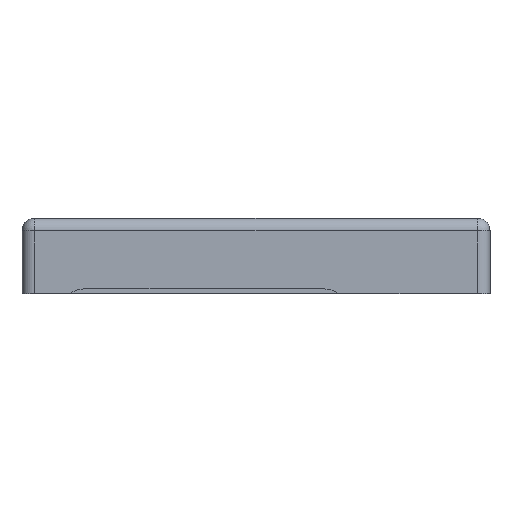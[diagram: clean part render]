
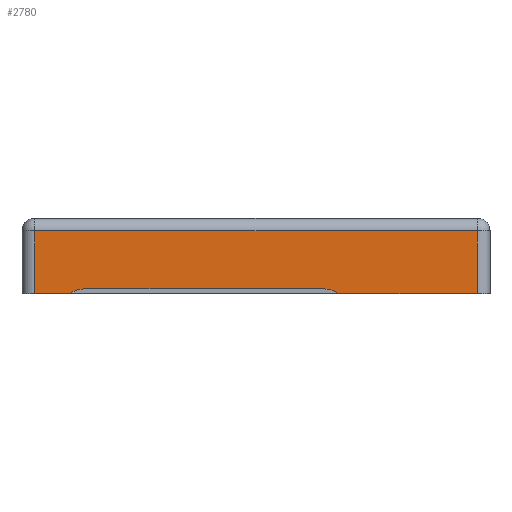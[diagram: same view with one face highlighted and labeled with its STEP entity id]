
A CAD part, front view. The second image highlights one B-rep face of the part: STEP entity #2780.
In plain terms, the highlighted planar face has unit normal (0, -1, 0).
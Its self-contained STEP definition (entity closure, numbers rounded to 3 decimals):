
#250=FACE_OUTER_BOUND('',#420,.T.);
#420=EDGE_LOOP('',(#2074,#2075,#2076,#2077,#2078,#2079,#2080,#2081));
#587=CIRCLE('',#2983,4.496);
#588=CIRCLE('',#2984,4.496);
#716=LINE('',#4150,#987);
#717=LINE('',#4155,#988);
#726=LINE('',#4177,#997);
#727=LINE('',#4179,#998);
#728=LINE('',#4181,#999);
#729=LINE('',#4185,#1000);
#987=VECTOR('',#3328,10.);
#988=VECTOR('',#3335,10.);
#997=VECTOR('',#3350,10.);
#998=VECTOR('',#3351,10.);
#999=VECTOR('',#3352,10.);
#1000=VECTOR('',#3355,10.);
#1282=VERTEX_POINT('',#4146);
#1283=VERTEX_POINT('',#4148);
#1284=VERTEX_POINT('',#4154);
#1294=VERTEX_POINT('',#4176);
#1295=VERTEX_POINT('',#4178);
#1296=VERTEX_POINT('',#4180);
#1297=VERTEX_POINT('',#4182);
#1298=VERTEX_POINT('',#4184);
#1582=EDGE_CURVE('',#1283,#1282,#716,.T.);
#1584=EDGE_CURVE('',#1284,#1282,#717,.T.);
#1595=EDGE_CURVE('',#1294,#1283,#726,.T.);
#1596=EDGE_CURVE('',#1295,#1294,#727,.T.);
#1597=EDGE_CURVE('',#1295,#1296,#728,.T.);
#1598=EDGE_CURVE('',#1296,#1297,#587,.T.);
#1599=EDGE_CURVE('',#1297,#1298,#729,.T.);
#1600=EDGE_CURVE('',#1298,#1284,#588,.T.);
#2074=ORIENTED_EDGE('',*,*,#1582,.F.);
#2075=ORIENTED_EDGE('',*,*,#1595,.F.);
#2076=ORIENTED_EDGE('',*,*,#1596,.F.);
#2077=ORIENTED_EDGE('',*,*,#1597,.T.);
#2078=ORIENTED_EDGE('',*,*,#1598,.T.);
#2079=ORIENTED_EDGE('',*,*,#1599,.T.);
#2080=ORIENTED_EDGE('',*,*,#1600,.T.);
#2081=ORIENTED_EDGE('',*,*,#1584,.T.);
#2693=PLANE('',#2982);
#2780=ADVANCED_FACE('',(#250),#2693,.T.);
#2982=AXIS2_PLACEMENT_3D('',#4175,#3348,#3349);
#2983=AXIS2_PLACEMENT_3D('',#4183,#3353,#3354);
#2984=AXIS2_PLACEMENT_3D('',#4186,#3356,#3357);
#3328=DIRECTION('',(0.,0.,-1.));
#3335=DIRECTION('',(1.,0.,0.));
#3348=DIRECTION('center_axis',(0.,-1.,0.));
#3349=DIRECTION('ref_axis',(1.,0.,0.));
#3350=DIRECTION('',(1.,0.,0.));
#3351=DIRECTION('',(0.,0.,1.));
#3352=DIRECTION('',(1.,0.,0.));
#3353=DIRECTION('center_axis',(0.,1.,0.));
#3354=DIRECTION('ref_axis',(0.,0.,1.));
#3355=DIRECTION('',(1.,0.,0.));
#3356=DIRECTION('center_axis',(0.,1.,0.));
#3357=DIRECTION('ref_axis',(0.,0.,-1.));
#4146=CARTESIAN_POINT('',(44.,-32.,15.));
#4148=CARTESIAN_POINT('',(44.,-32.,27.5));
#4150=CARTESIAN_POINT('',(44.,-32.,0.));
#4154=CARTESIAN_POINT('',(16.429,-32.,15.));
#4155=CARTESIAN_POINT('',(-23.25,-32.,15.));
#4175=CARTESIAN_POINT('Origin',(-46.5,-32.,0.));
#4176=CARTESIAN_POINT('',(-44.,-32.,27.5));
#4177=CARTESIAN_POINT('',(-23.25,-32.,27.5));
#4178=CARTESIAN_POINT('',(-44.,-32.,15.));
#4179=CARTESIAN_POINT('',(-44.,-32.,0.));
#4180=CARTESIAN_POINT('',(-37.007,-32.,15.));
#4181=CARTESIAN_POINT('',(-23.25,-32.,15.));
#4182=CARTESIAN_POINT('',(-34.233,-32.,15.957));
#4183=CARTESIAN_POINT('Origin',(-34.233,-32.,11.461));
#4184=CARTESIAN_POINT('',(13.656,-32.,15.957));
#4185=CARTESIAN_POINT('',(-40.367,-32.,15.957));
#4186=CARTESIAN_POINT('Origin',(13.656,-32.,11.461));
